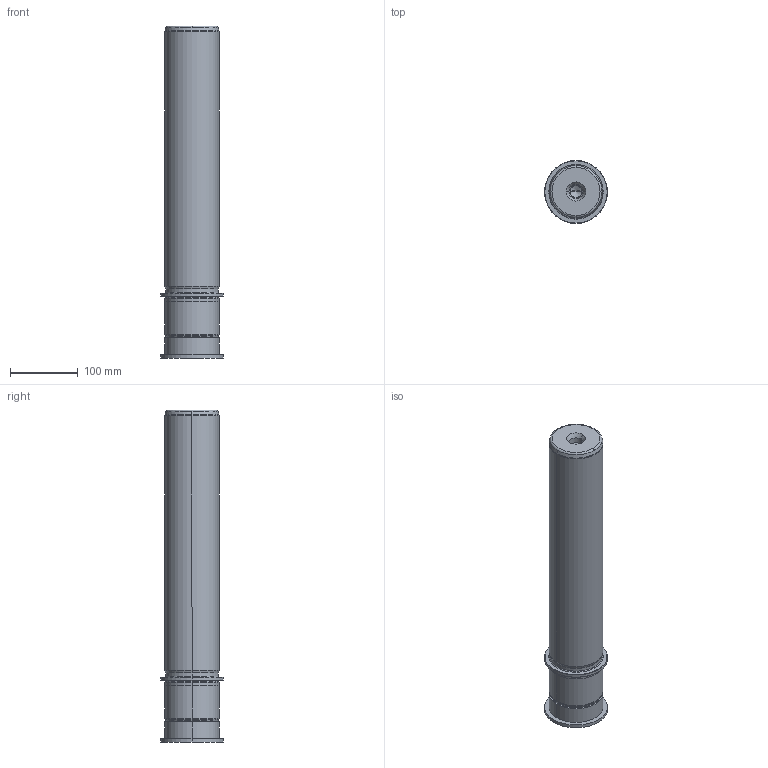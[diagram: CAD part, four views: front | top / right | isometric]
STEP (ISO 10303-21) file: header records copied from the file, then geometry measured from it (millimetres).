
FILE_DESCRIPTION((''),'2;1');
FILE_NAME('P22_080_400.stp','2009-02-03T10:16:56',(''),(''),'Mechanical Desktop 2009','Mechanical Desktop 2009',', , ');
FILE_SCHEMA(('CONFIG_CONTROL_DESIGN'));
Length unit declared in the file: millimetre
Products named in the file (2): Product; blmdl1
Assembly tree (1 placements, depth 2):
  Product
    blmdl1
Bounding box: 93 x 93 x 491 mm (x, y, z)
Volume: 2452085.3 mm3; surface area: 164586.5 mm2
Topology: 3 solids, 3 shells, 99 faces, 237 edges, 149 vertices
Faces by surface type: cylinder 32, cone 28, plane 19, torus 10, bspline 10
Entity records: 3419 total; most frequent: CARTESIAN_POINT 923, DIRECTION 570, ORIENTED_EDGE 466, AXIS2_PLACEMENT_3D 246, EDGE_CURVE 233, CIRCLE 155, VERTEX_POINT 149, EDGE_LOOP 110
